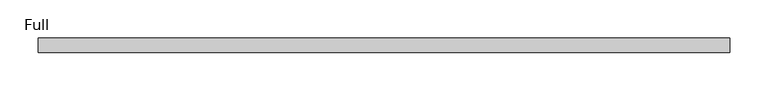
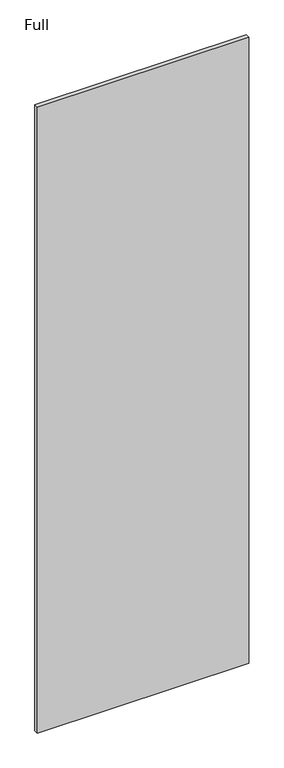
"""IFC4 building model written with IfcOpenShell, lengths in millimetres: proxy geometry, Panel-Fascia-Teknion-Altos-Standard : Full."""

from ifc_helpers import new_model, si_unit, frame, origin, place, context, project, spatial, polyline, outline, extrude, source, transform, mapped, element, save


def full_f94a2816(model_context):
    return source(origin(), model_context, "Body", "SweptSolid", [
        extrude(outline(polyline([(454.025, -9.525), (-454.025, -9.525), (-454.025, 9.525), (454.025, 9.525), (454.025, -9.525)])), frame((0.0, 0.0, 3.175), z_axis=(0.0, 0.0, 1.0), x_axis=(1.0, 0.0, 0.0)), (0.0, 0.0, 1.0), 2840.736),
    ])


if __name__ == "__main__":
    model = new_model("IFC4")
    model_context = context("Model", 3, world=origin())
    ifc_project = project(units=[si_unit("LENGTHUNIT", "METRE", prefix="MILLI")], contexts=[model_context])
    site = spatial("IfcSite", under=ifc_project)
    building = spatial("IfcBuilding", under=site)
    placement = place(None, origin())
    full_shape = full_f94a2816(model_context)
    element("IfcBuildingElementProxy", 1, Name="Panel-Fascia-Teknion-Altos-Standard : Full", ObjectType="Panel-Fascia-Teknion-Altos-Standard : Full", at=placement, inside=building, context=model_context, shape_type="MappedRepresentation", body=[
        mapped(full_shape, transform((0.0, 0.0, 0.0), x_axis=(1.0, 0.0, 0.0), y_axis=(0.0, 1.0, 0.0), z_axis=(0.0, 0.0, 1.0))),
    ])
    save(model, "model.ifc")
